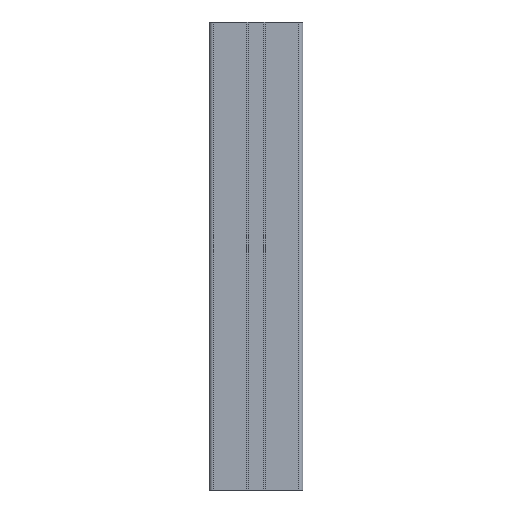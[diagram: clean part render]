
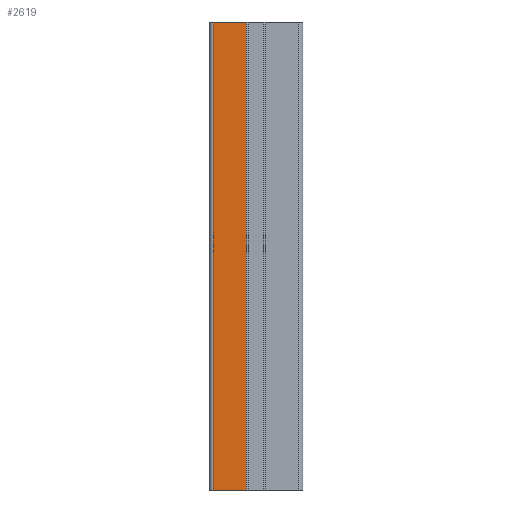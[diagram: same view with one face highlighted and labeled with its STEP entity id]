
A CAD part, left-side view. The second image highlights one B-rep face of the part: STEP entity #2619.
In plain terms, the highlighted planar face has unit normal (-1, 0, 0).
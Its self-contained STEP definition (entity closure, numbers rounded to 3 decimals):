
#79 = EDGE_CURVE ( 'NONE', #2387, #3148, #235, .T. ) ;
#141 = VECTOR ( 'NONE', #3838, 1000. ) ;
#235 = LINE ( 'NONE', #4399, #141 ) ;
#413 = CARTESIAN_POINT ( 'NONE',  ( -30., 27.5, 150. ) ) ;
#473 = CARTESIAN_POINT ( 'NONE',  ( -30., 27.5, 150. ) ) ;
#710 = ORIENTED_EDGE ( 'NONE', *, *, #5073, .T. ) ;
#718 = VERTEX_POINT ( 'NONE', #3368 ) ;
#923 = LINE ( 'NONE', #413, #4277 ) ;
#925 = CARTESIAN_POINT ( 'NONE',  ( -30., 27.5, 150. ) ) ;
#977 = PLANE ( 'NONE',  #4611 ) ;
#1266 = DIRECTION ( 'NONE',  ( 0., 0., -1. ) ) ;
#1604 = EDGE_LOOP ( 'NONE', ( #710, #3561, #4107, #3110 ) ) ;
#1788 = CARTESIAN_POINT ( 'NONE',  ( -30., 6.1, 150. ) ) ;
#1804 = CARTESIAN_POINT ( 'NONE',  ( -30., 6.1, 150. ) ) ;
#2146 = CARTESIAN_POINT ( 'NONE',  ( -30., 27.5, -150. ) ) ;
#2282 = VERTEX_POINT ( 'NONE', #1804 ) ;
#2336 = LINE ( 'NONE', #1788, #5086 ) ;
#2387 = VERTEX_POINT ( 'NONE', #925 ) ;
#2408 = VECTOR ( 'NONE', #2887, 1000. ) ;
#2619 = ADVANCED_FACE ( 'NONE', ( #4464 ), #977, .F. ) ;
#2887 = DIRECTION ( 'NONE',  ( 0., -1., 0. ) ) ;
#3110 = ORIENTED_EDGE ( 'NONE', *, *, #79, .T. ) ;
#3148 = VERTEX_POINT ( 'NONE', #2146 ) ;
#3368 = CARTESIAN_POINT ( 'NONE',  ( -30., 6.1, -150. ) ) ;
#3441 = CARTESIAN_POINT ( 'NONE',  ( -30., 27.5, -150. ) ) ;
#3561 = ORIENTED_EDGE ( 'NONE', *, *, #3762, .F. ) ;
#3762 = EDGE_CURVE ( 'NONE', #2282, #718, #2336, .T. ) ;
#3838 = DIRECTION ( 'NONE',  ( 0., 0., -1. ) ) ;
#3989 = LINE ( 'NONE', #3441, #2408 ) ;
#4107 = ORIENTED_EDGE ( 'NONE', *, *, #4758, .F. ) ;
#4277 = VECTOR ( 'NONE', #5116, 1000. ) ;
#4399 = CARTESIAN_POINT ( 'NONE',  ( -30., 27.5, 150. ) ) ;
#4464 = FACE_OUTER_BOUND ( 'NONE', #1604, .T. ) ;
#4611 = AXIS2_PLACEMENT_3D ( 'NONE', #473, #5182, #4654 ) ;
#4654 = DIRECTION ( 'NONE',  ( 0., 0., -1. ) ) ;
#4758 = EDGE_CURVE ( 'NONE', #2387, #2282, #923, .T. ) ;
#5073 = EDGE_CURVE ( 'NONE', #3148, #718, #3989, .T. ) ;
#5086 = VECTOR ( 'NONE', #1266, 1000. ) ;
#5116 = DIRECTION ( 'NONE',  ( 0., -1., 0. ) ) ;
#5182 = DIRECTION ( 'NONE',  ( 1., 0., 0. ) ) ;
